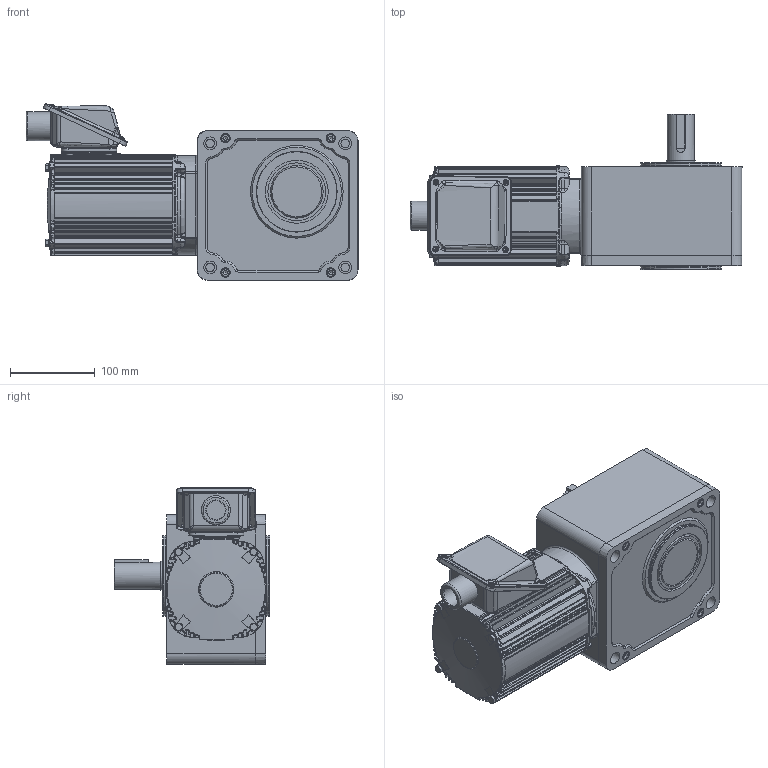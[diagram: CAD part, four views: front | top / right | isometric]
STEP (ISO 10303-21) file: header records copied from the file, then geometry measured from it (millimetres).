
FILE_DESCRIPTION( ( 'Unknown' ), '1' );
FILE_NAME( 'W:/gm/3D-WEB/GV-SHY/完成品/パーツ/完成品/完成品(GV-SHY_ﾌｪｰｽﾏｳﾝﾄ取付_0.75kW_ﾌﾞﾚｰｷ無_C).stp', 'Unknown', ( 'Unknown' ), ( 'Unknown' ), 'PSStep 11.0', 'Unknown', ' ' );
FILE_SCHEMA( ( 'AUTOMOTIVE_DESIGN { 1 0 10303 214 1 1 1 1 }' ) );
Length unit declared in the file: millimetre
Products named in the file (3): SW-P拸椔_M5
Bounding box: 390.59 x 183 x 207.52 mm (x, y, z)
Volume: 559250.3 mm3; surface area: 512182.4 mm2
Topology: 12 solids, 18 shells, 2095 faces, 5163 edges, 3180 vertices
Faces by surface type: plane 810, cylinder 670, bspline 270, torus 240, cone 92, sphere 13
Full cylindrical faces by diameter (mm): 3.3 x4, 3.8 x4, 4 x2, 4.134 x12, 4.5 x8, 4.6 x4, 5 x4, 5.5 x4, 5.8 x4, 6 x10, 6.6 x4, 6.647 x1, 7 x4, 8.2 x1, 9.7 x4, 10 x5, 10.106 x8, 11 x4, 15 x5, 16 x1, 22 x1, 24.117 x2, 32 x1, 34 x2, 34.1 x1, 40 x1, 42 x1, 48 x1, 50 x2, 54 x1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
Entity records: 124403 total; most frequent: CARTESIAN_POINT 60429, DIRECTION 10007, ORIENTED_EDGE 9706, EDGE_CURVE 4853, AXIS2_PLACEMENT_3D 4132, VERTEX_POINT 3090, EDGE_LOOP 2406, FACE_OUTER_BOUND 2254
